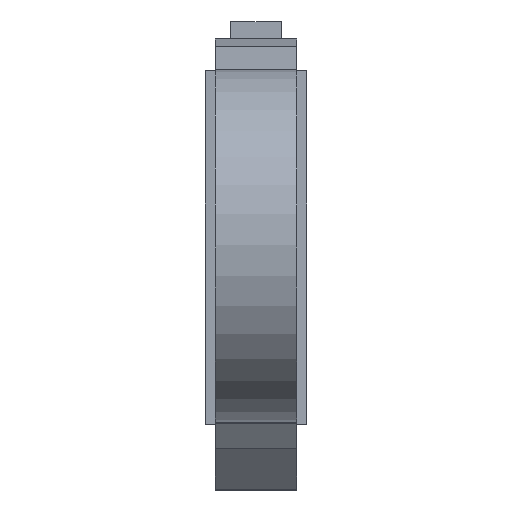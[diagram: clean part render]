
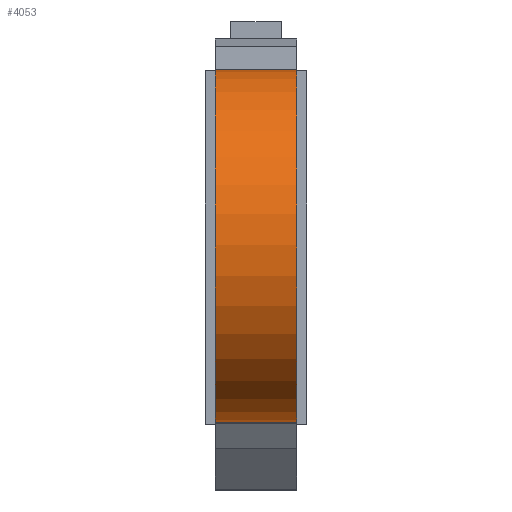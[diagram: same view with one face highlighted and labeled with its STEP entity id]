
A CAD part, top view. The second image highlights one B-rep face of the part: STEP entity #4053.
In plain terms, the highlighted cylindrical face has radius 17.453 mm (diameter 34.906 mm), a partial arc.
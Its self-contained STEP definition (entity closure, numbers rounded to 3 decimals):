
#22=CYLINDRICAL_SURFACE('',#4291,17.453);
#51=CIRCLE('',#4268,17.453);
#53=CIRCLE('',#4292,17.453);
#119=FACE_OUTER_BOUND('',#337,.T.);
#337=EDGE_LOOP('',(#2919,#2920,#2921,#2922));
#627=LINE('',#5779,#1199);
#650=LINE('',#5824,#1222);
#1199=VECTOR('',#4716,10.);
#1222=VECTOR('',#4761,10.);
#1717=VERTEX_POINT('',#5713);
#1718=VERTEX_POINT('',#5714);
#1739=VERTEX_POINT('',#5778);
#1750=VERTEX_POINT('',#5822);
#2145=EDGE_CURVE('',#1717,#1718,#51,.T.);
#2178=EDGE_CURVE('',#1739,#1718,#627,.T.);
#2201=EDGE_CURVE('',#1717,#1750,#650,.T.);
#2202=EDGE_CURVE('',#1739,#1750,#53,.T.);
#2919=ORIENTED_EDGE('',*,*,#2201,.T.);
#2920=ORIENTED_EDGE('',*,*,#2202,.F.);
#2921=ORIENTED_EDGE('',*,*,#2178,.T.);
#2922=ORIENTED_EDGE('',*,*,#2145,.F.);
#4053=ADVANCED_FACE('',(#119),#22,.T.);
#4268=AXIS2_PLACEMENT_3D('',#5715,#4661,#4662);
#4291=AXIS2_PLACEMENT_3D('',#5825,#4762,#4763);
#4292=AXIS2_PLACEMENT_3D('',#5826,#4764,#4765);
#4661=DIRECTION('center_axis',(-1.,0.,0.));
#4662=DIRECTION('ref_axis',(0.,1.,-0.004));
#4716=DIRECTION('',(-1.,0.,0.));
#4761=DIRECTION('',(1.,0.,0.));
#4762=DIRECTION('center_axis',(1.,0.,0.));
#4763=DIRECTION('ref_axis',(0.,1.,-0.004));
#4764=DIRECTION('center_axis',(1.,0.,0.));
#4765=DIRECTION('ref_axis',(0.,1.,-0.004));
#5713=CARTESIAN_POINT('',(-4.,38.392,-55.462));
#5714=CARTESIAN_POINT('',(-4.,73.298,-55.616));
#5715=CARTESIAN_POINT('Origin',(-4.,55.845,-55.539));
#5778=CARTESIAN_POINT('',(4.,73.298,-55.616));
#5779=CARTESIAN_POINT('',(0.,73.298,-55.616));
#5822=CARTESIAN_POINT('',(4.,38.392,-55.462));
#5824=CARTESIAN_POINT('',(0.,38.392,-55.462));
#5825=CARTESIAN_POINT('Origin',(0.,55.845,-55.539));
#5826=CARTESIAN_POINT('Origin',(4.,55.845,-55.539));
